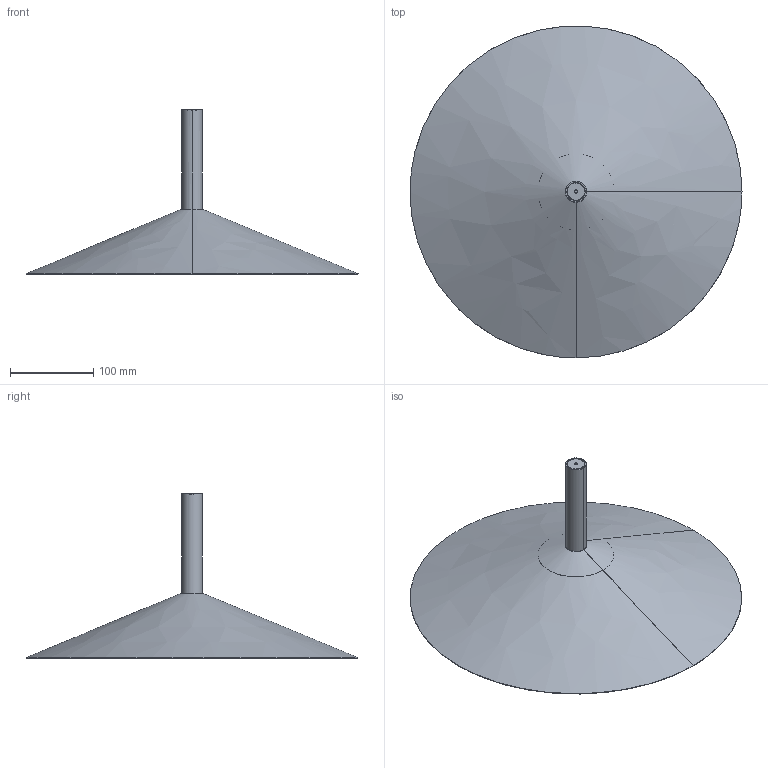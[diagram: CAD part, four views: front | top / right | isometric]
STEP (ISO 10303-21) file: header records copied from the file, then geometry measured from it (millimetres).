
FILE_DESCRIPTION(/* description */ (''),/* implementation_level */ '2;1');
FILE_NAME(/* name */ 'SEM000~3',/* time_stamp */ '2020-05-14T12:02:05+02:00',/* author */ (''),/* organization */ (''),/* preprocessor_version */ 'ST-DEVELOPER v16.5',/* originating_system */ '',/* authorisation */ '');
FILE_SCHEMA (('AUTOMOTIVE_DESIGN'));
Length unit declared in the file: millimetre
Products named in the file (2): Document; MET.005363
Assembly tree (1 placements, depth 2):
  Document
    MET.005363
Bounding box: 400 x 399.75 x 198.5 mm (x, y, z)
Volume: 176307.6 mm3; surface area: 305630.9 mm2
Topology: 4 solids, 5 shells, 47 faces, 116 edges, 80 vertices
Faces by surface type: bspline 37, plane 10
Entity records: 2350 total; most frequent: CARTESIAN_POINT 1629, ORIENTED_EDGE 228, EDGE_CURVE 116, VERTEX_POINT 80, EDGE_LOOP 56, ADVANCED_FACE 47, FACE_OUTER_BOUND 47, B_SPLINE_CURVE_WITH_KNOTS 28
